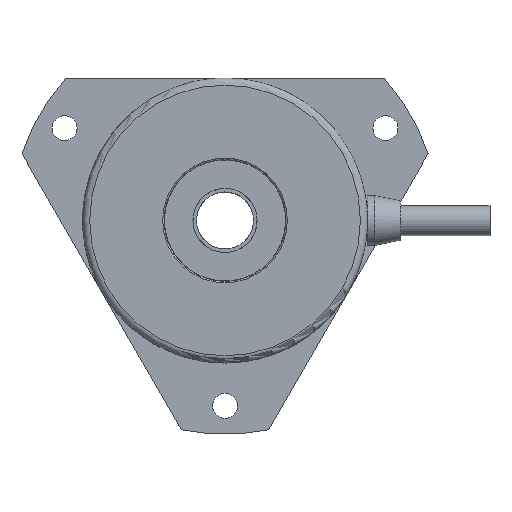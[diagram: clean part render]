
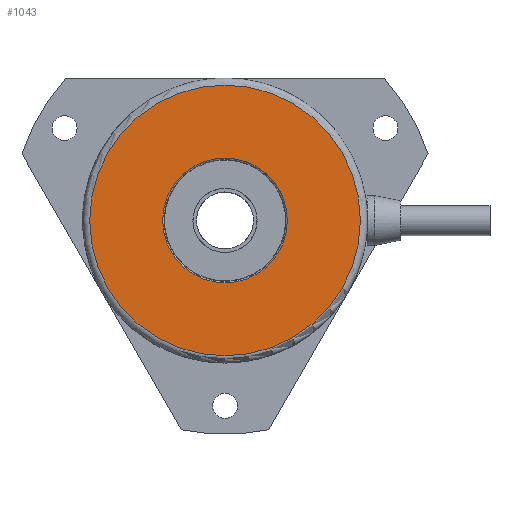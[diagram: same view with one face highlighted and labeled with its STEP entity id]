
A CAD part, top view. The second image highlights one B-rep face of the part: STEP entity #1043.
In plain terms, the highlighted planar face has unit normal (0, 0, 1).
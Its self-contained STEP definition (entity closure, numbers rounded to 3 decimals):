
#1043=ADVANCED_FACE('',(#1488,#1489),#1490,.T.);
#1488=FACE_BOUND('',#2035,.T.);
#1489=FACE_OUTER_BOUND('',#2036,.T.);
#1490=PLANE('',#2037);
#2035=EDGE_LOOP('',(#2635));
#2036=EDGE_LOOP('',(#2636));
#2037=AXIS2_PLACEMENT_3D('',#2637,#2638,#2639);
#2635=ORIENTED_EDGE('',*,*,#3629,.F.);
#2636=ORIENTED_EDGE('',*,*,#3611,.T.);
#2637=CARTESIAN_POINT('',(0.,14.375,16.5));
#2638=DIRECTION('',(0.,0.,1.0));
#2639=DIRECTION('',(-1.0,0.,0.));
#3611=EDGE_CURVE('',#4015,#4015,#4016,.F.);
#3629=EDGE_CURVE('',#4042,#4042,#4043,.T.);
#4015=VERTEX_POINT('',#4735);
#4016=CIRCLE('',#4736,19.0);
#4042=VERTEX_POINT('',#4766);
#4043=CIRCLE('',#4767,8.75);
#4735=CARTESIAN_POINT('',(-19.0,0.,16.5));
#4736=AXIS2_PLACEMENT_3D('',#5670,#5671,#5672);
#4766=CARTESIAN_POINT('',(8.75,0.,16.5));
#4767=AXIS2_PLACEMENT_3D('',#5701,#5702,#5703);
#5670=CARTESIAN_POINT('',(0.,0.,16.5));
#5671=DIRECTION('',(0.,0.,-1.0));
#5672=DIRECTION('',(-1.0,0.,0.));
#5701=CARTESIAN_POINT('',(0.,0.,16.5));
#5702=DIRECTION('',(0.0,0.0,1.0));
#5703=DIRECTION('',(1.0,0.0,0.0));
